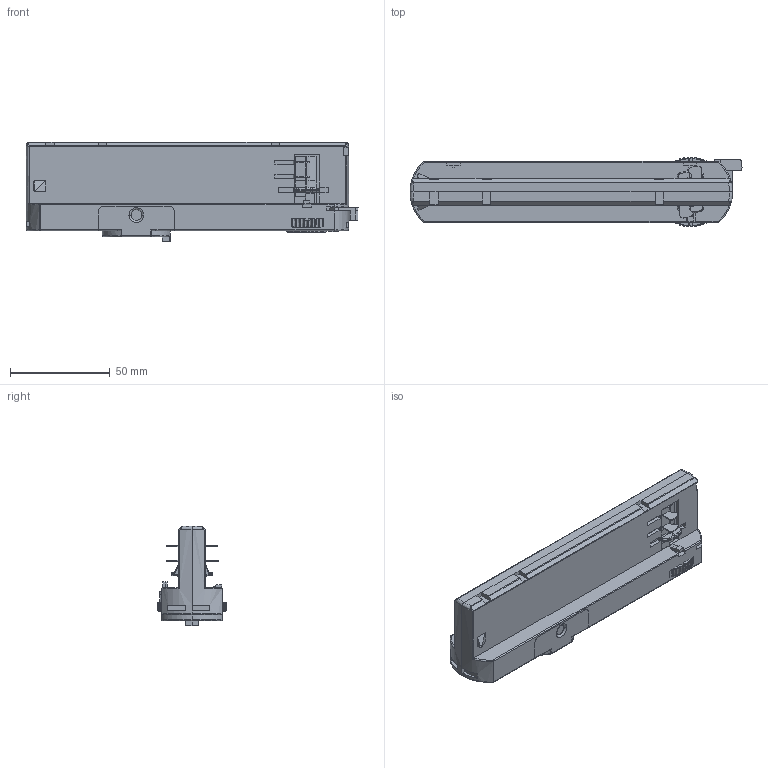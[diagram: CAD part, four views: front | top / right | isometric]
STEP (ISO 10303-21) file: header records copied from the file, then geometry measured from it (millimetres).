
FILE_DESCRIPTION(/* description */ (''),/* implementation_level */ '2;1');
FILE_NAME(/* name */ 'FDS-30~4',/* time_stamp */ '2023-06-30T16:34:47+08:00',/* author */ (''),/* organization */ (''),/* preprocessor_version */ 'ST-DEVELOPER v16.5',/* originating_system */ '',/* authorisation */ '');
FILE_SCHEMA (('AUTOMOTIVE_DESIGN'));
Products named in the file (1): Document
Bounding box: 166.53 x 34.99 x 50 mm (x, y, z)
Volume: 135322.4 mm3; surface area: 30913.8 mm2
Topology: 2 solids, 2 shells, 1435 faces, 3650 edges, 2230 vertices
Faces by surface type: bspline 990, plane 445
Entity records: 150958 total; most frequent: CARTESIAN_POINT 128634, ORIENTED_EDGE 7300, EDGE_CURVE 3650, B_SPLINE_CURVE_WITH_KNOTS 2929, VERTEX_POINT 2230, EDGE_LOOP 1458, ADVANCED_FACE 1435, FACE_OUTER_BOUND 1435
